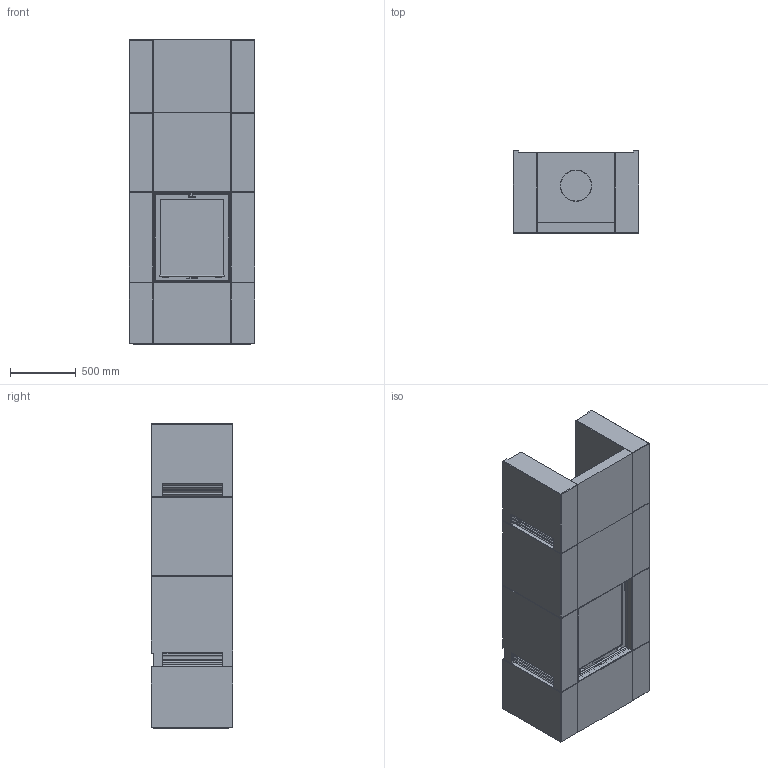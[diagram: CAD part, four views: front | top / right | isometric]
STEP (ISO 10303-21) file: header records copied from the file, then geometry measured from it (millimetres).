
FILE_DESCRIPTION( ( 'Unknown' ), '1' );
FILE_NAME( 'C:/Documents and Settings/hapierrea/Application Data/Unigraphics Solutions/Solid Edge/Insight/insight/Insight/interior models/C21S High Assembly.stp', '2010', ( 'Unknown' ), ( 'NIBE AB' ), 'PSStep 11.0', 'Solid Edge', ' ' );
FILE_SCHEMA( ( 'AUTOMOTIVE_DESIGN { 1 0 10303 214 1 1 1 1 }' ) );
Length unit declared in the file: millimetre
Products named in the file (35): Assem1; Grills extension C21; Grills C21; Insert i20; Front extension C21S; Firebox insulation i20; Front set C21S; Concrete extension C21; Door i20; Door frame i20; Glass i20; Concrete set C21-oa0; Fire i20
Bounding box: 950 x 620 x 2304 mm (x, y, z)
Surface area: 51720272.1 mm2
Topology: 68 solids, 68 shells, 3286 faces, 8478 edges, 5586 vertices
Faces by surface type: plane 2398, extrusion 584, cylinder 280, cone 20, sphere 4
Full cylindrical faces by diameter (mm): 10 x44, 12 x2, 100 x6, 200 x6, 233.561 x2, 236.938 x2
Entity records: 70379 total; most frequent: CARTESIAN_POINT 18498, ORIENTED_EDGE 8410, DIRECTION 6592, EDGE_CURVE 4205, VERTEX_POINT 2792, VECTOR 2762, LINE 2470, AXIS2_PLACEMENT_3D 1915
